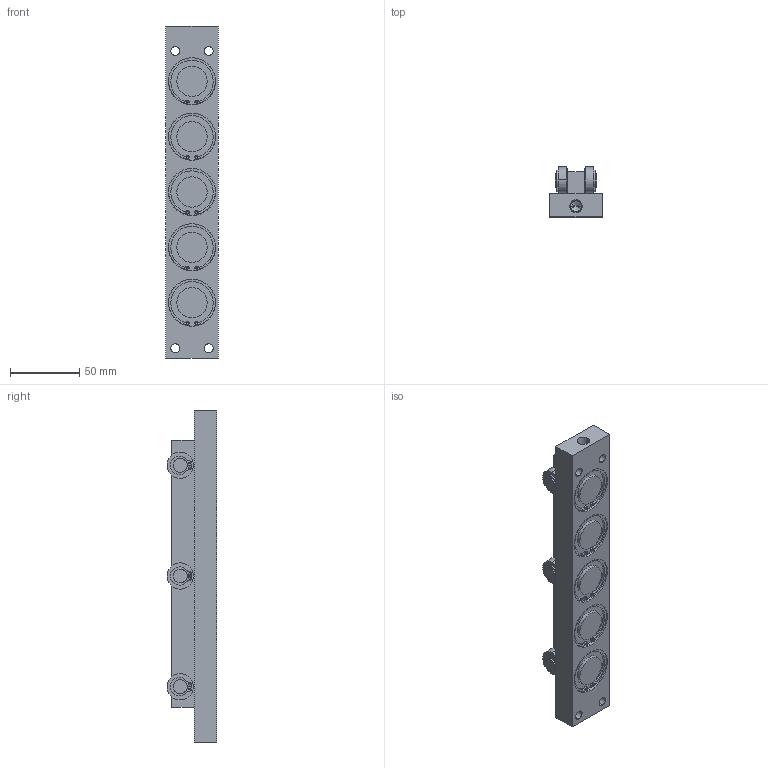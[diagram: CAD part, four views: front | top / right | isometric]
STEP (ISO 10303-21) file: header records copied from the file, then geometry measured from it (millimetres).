
FILE_DESCRIPTION (( 'STEP AP203' ), '1' );
FILE_NAME ('PVLR30S-3.STEP', '2015-12-22T06:01:12', ( '' ), ( '' ), 'SwSTEP 2.0', 'SolidWorks 2013', '' );
FILE_SCHEMA (( 'CONFIG_CONTROL_DESIGN' ));
Length unit declared in the file: millimetre
Products named in the file (1): PVLR30S-3
Bounding box: 38 x 36 x 240 mm (x, y, z)
Volume: 189928.9 mm3; surface area: 43844.5 mm2
Topology: 3 solids, 3 shells, 361 faces, 887 edges, 581 vertices
Faces by surface type: cylinder 202, plane 147, cone 12
Entity records: 10878 total; most frequent: DIRECTION 2051, CARTESIAN_POINT 1824, ORIENTED_EDGE 1762, EDGE_CURVE 881, AXIS2_PLACEMENT_3D 808, VERTEX_POINT 581, CIRCLE 446, VECTOR 435
